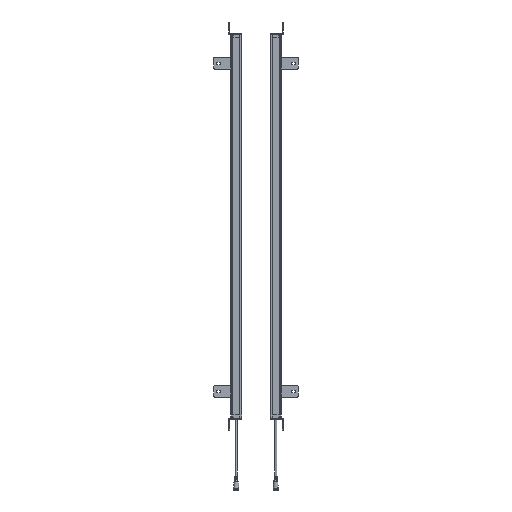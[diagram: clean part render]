
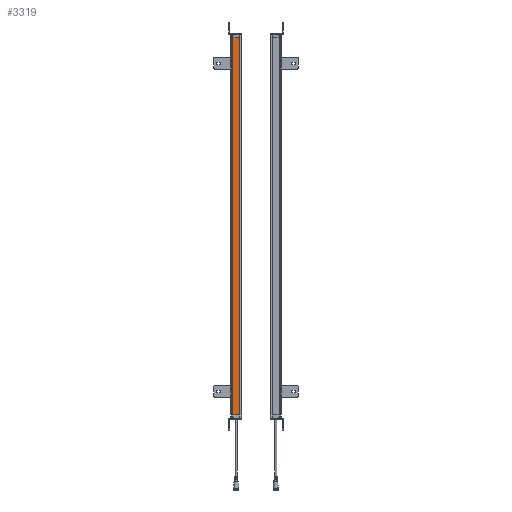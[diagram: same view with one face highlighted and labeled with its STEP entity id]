
A CAD part, left-side view. The second image highlights one B-rep face of the part: STEP entity #3319.
In plain terms, the highlighted planar face has unit normal (-1, 0, 0).
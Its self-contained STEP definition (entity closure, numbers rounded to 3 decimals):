
#1795=FACE_OUTER_BOUND('',#5986,.T.);
#3319=ADVANCED_FACE('',(#1795),#4749,.T.);
#4749=PLANE('',#29857);
#5986=EDGE_LOOP('',(#9184,#9185,#9186,#9187));
#9184=ORIENTED_EDGE('',*,*,#19383,.F.);
#9185=ORIENTED_EDGE('',*,*,#19072,.T.);
#9186=ORIENTED_EDGE('',*,*,#19385,.T.);
#9187=ORIENTED_EDGE('',*,*,#19386,.F.);
#16145=VERTEX_POINT('',#43699);
#16146=VERTEX_POINT('',#43701);
#16357=VERTEX_POINT('',#44323);
#16358=VERTEX_POINT('',#44327);
#19072=EDGE_CURVE('',#16146,#16145,#24663,.T.);
#19383=EDGE_CURVE('',#16146,#16357,#24884,.T.);
#19385=EDGE_CURVE('',#16145,#16358,#24886,.T.);
#19386=EDGE_CURVE('',#16357,#16358,#24887,.T.);
#24663=LINE('',#43700,#27142);
#24884=LINE('',#44322,#27363);
#24886=LINE('',#44326,#27365);
#24887=LINE('',#44328,#27366);
#27142=VECTOR('',#33404,1.);
#27363=VECTOR('',#34005,1.);
#27365=VECTOR('',#34009,1.);
#27366=VECTOR('',#34010,1.);
#29857=AXIS2_PLACEMENT_3D('',#44329,#34011,#34012);
#33404=DIRECTION('',(0.,1.,0.));
#34005=DIRECTION('',(0.,0.,-1.));
#34009=DIRECTION('',(0.,0.,-1.));
#34010=DIRECTION('',(0.,1.,0.));
#34011=DIRECTION('',(-1.,0.,0.));
#34012=DIRECTION('',(0.,1.,0.));
#43699=CARTESIAN_POINT('',(50.4,-5.5,958.059));
#43700=CARTESIAN_POINT('',(50.4,-5.5,958.059));
#43701=CARTESIAN_POINT('',(50.4,-23.5,958.059));
#44322=CARTESIAN_POINT('',(50.4,-23.5,103.059));
#44323=CARTESIAN_POINT('',(50.4,-23.5,-41.941));
#44326=CARTESIAN_POINT('',(50.4,-5.5,103.059));
#44327=CARTESIAN_POINT('',(50.4,-5.5,-41.941));
#44328=CARTESIAN_POINT('',(50.4,-23.5,-41.941));
#44329=CARTESIAN_POINT('',(50.4,-5.5,-61.941));
